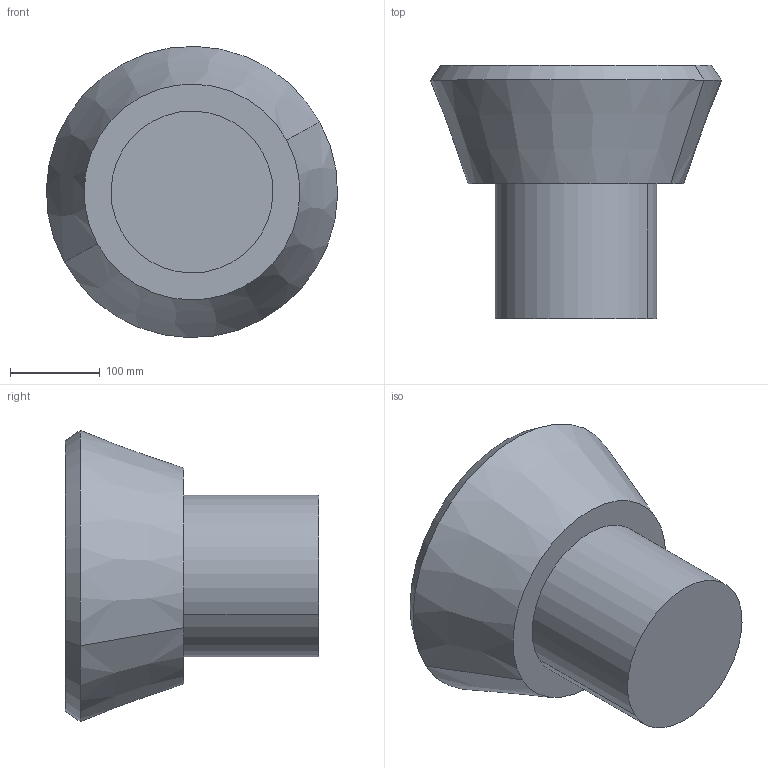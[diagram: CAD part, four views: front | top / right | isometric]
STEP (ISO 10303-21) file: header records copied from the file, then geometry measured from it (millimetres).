
FILE_DESCRIPTION(('CATIA V5 STEP Exchange'),'2;1');
FILE_NAME('C:\_Andres\UNIVERSIDAD\IQS\ASIGNATURAS\DAO\EXF\EXF-15161c\1original\Garcia_Granada_Ej09-optimiza_v30.stp','2016-03-04T21:55:32+00:00',('none'),('none'),'CATIA Version 5 Release 20 SP 1 (IN-10)','CATIA V5 STEP AP203','none');
FILE_SCHEMA(('CONFIG_CONTROL_DESIGN'));
Length unit declared in the file: millimetre
Products named in the file (1): Garcia_Granada_Ej09-optimiza_v30
Bounding box: 323.75 x 281.56 x 323.75 mm (x, y, z)
Volume: 12296686.7 mm3; surface area: 333749.4 mm2
Topology: 1 solids, 2 shells, 13 faces, 22 edges, 14 vertices
Faces by surface type: plane 5, cylinder 4, cone 4
Entity records: 324 total; most frequent: CARTESIAN_POINT 47, ORIENTED_EDGE 44, DIRECTION 42, AXIS2_PLACEMENT_3D 25, EDGE_CURVE 22, CIRCLE 14, EDGE_LOOP 14, VERTEX_POINT 14
